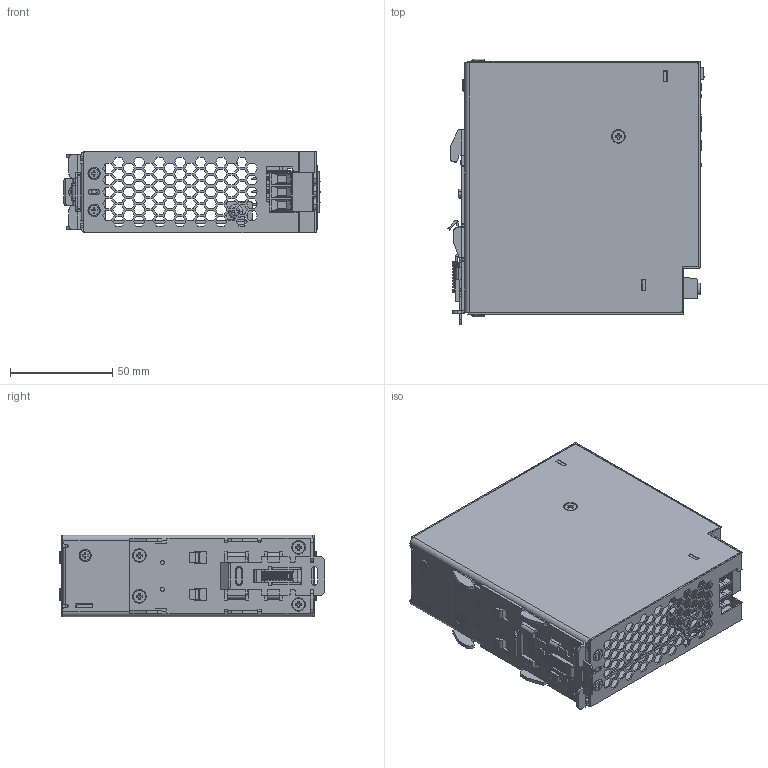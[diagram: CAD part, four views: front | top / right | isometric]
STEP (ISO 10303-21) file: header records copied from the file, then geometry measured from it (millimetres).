
FILE_DESCRIPTION((''),'2;1');
FILE_NAME('DRP-24V120W2BN_V2_ASM','2014-11-07T',('Pattrapol.seng'),(''),'PRO/ENGINEER BY PARAMETRIC TECHNOLOGY CORPORATION, 2010180','PRO/ENGINEER BY PARAMETRIC TECHNOLOGY CORPORATION, 2010180','');
FILE_SCHEMA(('CONFIG_CONTROL_DESIGN','SHAPE_APPEARANCE_LAYERS_GROUPS'));
Products named in the file (27): 330320690102; 330321100101; 326838880000_SPEC-LABEL; 346654410101_BASE; 346008810000_LATCH; 346202620000_SPRING; ASSY_BASE_NEW_V2_ASM; 3100000600_SCREW_M3_L6; MAINBOARD_V3; 346142640000_STAND-OFF; 307301377W_OUTPUT_CONNECTOR; MH150-635M804A302_A2; MH150-635M804A302_A3; MH150-635M804A302_A4_AF0; MH150-635M803_INPUT-CONNECTOR_ASM; EE_LED_2301421631; EE_RES_VR; INPUT_DC-BOARD; OUTPUT_DC-BOARD; 3352085700_TERMINAL_6-32; 3470401800; ASSY_MAINBOARD_ASM; 3103300600-1; 3105039100; FRONT_LABEL_S0; 3105465600; DRP-24V120W2BN_V2_ASM
Assembly tree (36 placements, depth 4):
  DRP-24V120W2BN_V2_ASM
    330320690102
    330321100101
    326838880000_SPEC-LABEL
    ASSY_BASE_NEW_V2_ASM
      346654410101_BASE
      346008810000_LATCH
      346202620000_SPRING
    3100000600_SCREW_M3_L6  x6
    ASSY_MAINBOARD_ASM
      MAINBOARD_V3
      346142640000_STAND-OFF
      307301377W_OUTPUT_CONNECTOR
      MH150-635M803_INPUT-CONNECTOR_ASM
        MH150-635M804A302_A2
        MH150-635M804A302_A3  x2
        MH150-635M804A302_A4_AF0
      EE_LED_2301421631
      EE_RES_VR
      INPUT_DC-BOARD
      OUTPUT_DC-BOARD
      3352085700_TERMINAL_6-32
      3470401800  x2
    3103300600-1
    3105039100  x4
    FRONT_LABEL_S0
    3105465600
Bounding box: 125.39 x 130 x 40.08 mm (x, y, z)
Volume: 96621.8 mm3; surface area: 164788.4 mm2
Topology: 33 solids, 33 shells, 5651 faces, 15459 edges, 9999 vertices
Faces by surface type: plane 4110, cylinder 709, extrusion 563, cone 94, bspline 93, torus 76, sphere 6
Entity records: 205484 total; most frequent: CARTESIAN_POINT 42682, ORIENTED_EDGE 29426, DIRECTION 25152, EDGE_CURVE 14713, VECTOR 12286, LINE 11723, VERTEX_POINT 9620, PRESENTATION_STYLE_ASSIGNMENT 7592
